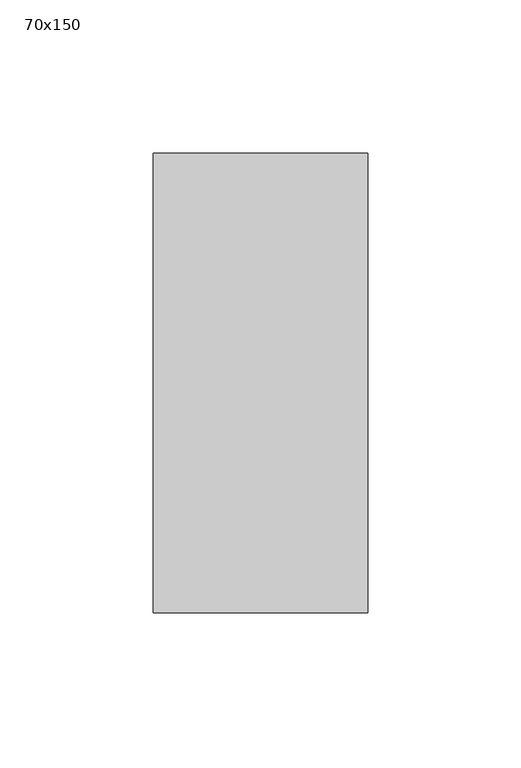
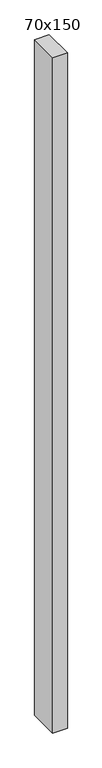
"""IFC4 building model written with IfcOpenShell, lengths in millimetres: member geometry, 長方形のマリオン : 70x150."""

from ifc_helpers import new_model, si_unit, frame, origin, place, context, project, spatial, polyline, outline, extrude, source, transform, mapped, element, save


def member_70x150_b7995fa3(model_context):
    return source(origin(), model_context, "Body", "SweptSolid", [
        extrude(outline(polyline([(0.0, 75.0), (0.0, -75.0), (-70.0, -75.0), (-70.0, 75.0), (0.0, 75.0)])), frame((0.0, 0.0, -3430.0), z_axis=(0.0, 0.0, 1.0), x_axis=(1.0, 0.0, 0.0)), (0.0, 0.0, 1.0), 3430.0),
    ])


if __name__ == "__main__":
    model = new_model("IFC4")
    model_context = context("Model", 3, world=origin())
    ifc_project = project(units=[si_unit("LENGTHUNIT", "METRE", prefix="MILLI")], contexts=[model_context])
    site = spatial("IfcSite", under=ifc_project)
    building = spatial("IfcBuilding", under=site)
    placement = place(None, origin())
    member_70x150_shape = member_70x150_b7995fa3(model_context)
    element("IfcMember", 1, ObjectType="長方形のマリオン : 70x150", at=placement, inside=building, context=model_context, shape_type="MappedRepresentation", body=[
        mapped(member_70x150_shape, transform((0.0, 0.0, 0.0), x_axis=(1.0, 0.0, 0.0), y_axis=(0.0, 1.0, 0.0), z_axis=(0.0, 0.0, 1.0))),
    ])
    save(model, "model.ifc")
